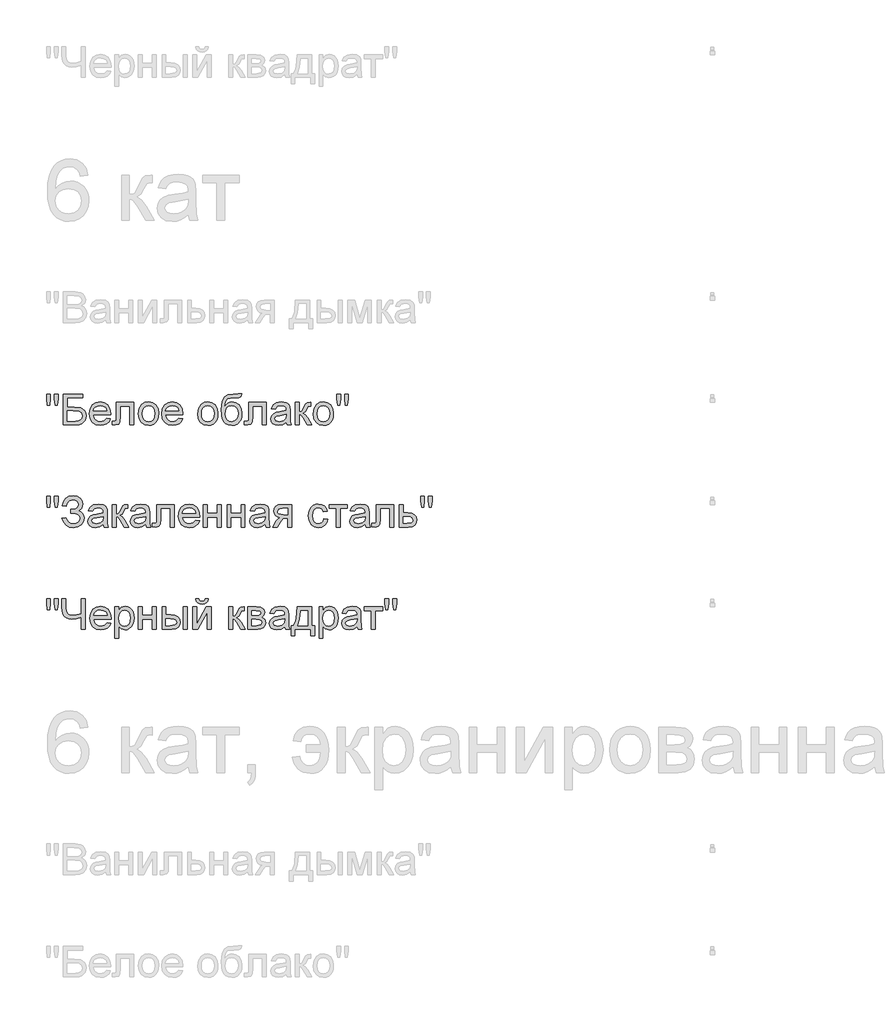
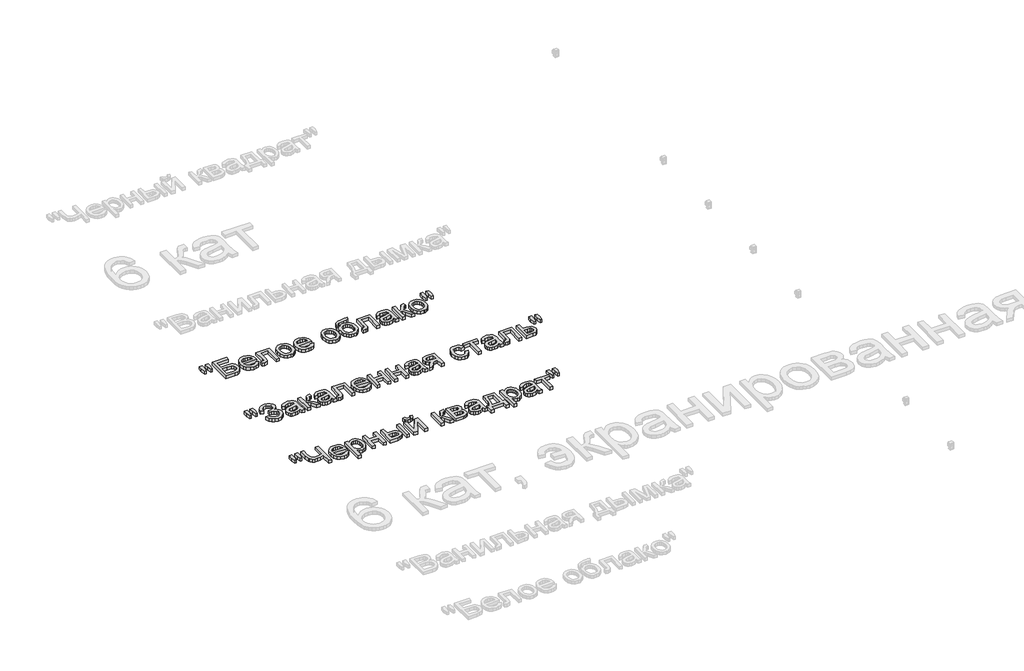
# One storey, part 72 of 168: 3 proxies.
"""IFC4 building model written with IfcOpenShell, lengths in millimetres."""

from ifc_helpers import new_model, si_unit, origin, origin_with_axes, place, context, project, spatial, polyline, outline, extrude, element, save

model = new_model("IFC4")

# Units and contexts
model_context = context("Model", 3, world=origin())
ifc_project = project(units=[si_unit("LENGTHUNIT", "METRE", prefix="MILLI")], contexts=[model_context])

# Site, building, storey
site = spatial("IfcSite", under=ifc_project)
building = spatial("IfcBuilding", under=site)
storey = spatial("IfcBuildingStorey", under=building, Name="Этаж 01", Elevation=0.0)

# Proxies
placement = place(None, origin())
element("IfcBuildingElementProxy", 1, Name="150", ObjectType="150", at=placement, inside=storey, context=model_context, shape_type="SweptSolid", body=[
    extrude(outline(polyline([(60180.1485789, -38270.3300622), (60175.550054, -38241.2305964), (60175.550054, -38216.1778325), (60194.3856121, -38216.1778325), (60194.3856121, -38241.2305964), (60190.2653338, -38270.3300622), (60180.1485789, -38270.3300622)])), origin_with_axes(), (0.0, 0.0, 1.0), 20.0),
    extrude(outline(polyline([(60217.7093306, -38270.3300622), (60213.2211703, -38241.2305964), (60213.2211703, -38216.1778325), (60232.0567284, -38216.1778325), (60232.0567284, -38241.2305964), (60227.6421445, -38270.3300622), (60217.7093306, -38270.3300622)])), origin_with_axes(), (0.0, 0.0, 1.0), 20.0),
    extrude(outline(polyline([(60257.9556209, -38216.1778325), (60352.1334117, -38216.1778325), (60352.1334117, -38235.0133907), (60276.791179, -38235.0133907), (60276.791179, -38279.7478413), (60312.0710624, -38279.7478413), (60343.157091, -38283.573814), (60353.5589544, -38289.101241), (60361.6615553, -38298.0315764), (60366.8762826, -38309.5278888), (60368.614525, -38322.7532465), (60363.6665122, -38344.2191609), (60348.8960501, -38360.5347274), (60335.6247071, -38365.2804052), (60315.4555767, -38366.8622977), (60257.9556209, -38366.8622977), (60257.9556209, -38216.1778325)]), holes=[polyline([(60276.791179, -38348.0267396), (60317.1478339, -38348.0267396), (60331.4124583, -38346.4724382), (60341.6119866, -38341.8095339), (60347.7372218, -38334.0380267), (60349.7789669, -38323.1579167), (60345.1068655, -38308.4058487), (60332.102237, -38300.533174), (60303.7201411, -38298.5833994), (60276.791179, -38298.5833994), (60276.791179, -38348.0267396)])]), origin_with_axes(), (0.0, 0.0, 1.0), 20.0),
    extrude(outline(polyline([(60469.6349209, -38333.900071), (60488.1025971, -38336.2545157), (60481.4485315, -38350.1696522), (60470.8305374, -38360.5715156), (60456.4877381, -38367.0554358), (60438.6592569, -38369.2167425), (60416.5587461, -38365.4873388), (60399.5534008, -38354.2991276), (60388.710079, -38336.3786759), (60385.0956384, -38312.4525506), (60388.7468672, -38287.7216835), (60399.7005536, -38269.2264162), (60416.4759726, -38257.6933157), (60437.5923991, -38253.8489488), (60458.0512366, -38257.6841186), (60474.3989927, -38269.189628), (60485.1181544, -38287.6481071), (60488.6912083, -38312.342186), (60488.5808437, -38317.4189576), (60403.9311966, -38317.4189576), (60407.1915508, -38331.518035), (60414.7653213, -38341.8831103), (60425.6960151, -38348.2566658), (60439.0271389, -38350.3811843), (60457.4948151, -38346.444847), (60469.6349209, -38333.900071)]), holes=[polyline([(60403.9311966, -38298.5833994), (60469.8556501, -38298.5833994), (60467.3080673, -38288.6321915), (60462.3140692, -38281.5136749), (60451.3327917, -38274.8917989), (60437.5188227, -38272.684507), (60424.8222954, -38274.445742), (60414.3238629, -38279.7294472), (60407.0260039, -38287.9654053), (60403.9311966, -38298.5833994)])]), origin_with_axes(), (0.0, 0.0, 1.0), 20.0),
    extrude(outline(polyline([(60516.9445455, -38256.2033936), (60601.7045572, -38256.2033936), (60601.7045572, -38366.7519331), (60582.868999, -38366.7519331), (60582.868999, -38275.0389517), (60535.7801036, -38275.0389517), (60535.7801036, -38327.830018), (60534.5109108, -38352.1838061), (60527.539547, -38362.4661079), (60511.0584336, -38366.8622977), (60495.7545426, -38365.9058045), (60495.7545426, -38348.0267396), (60504.1790403, -38348.0267396), (60512.6955084, -38346.8679113), (60516.0984169, -38343.1890913), (60516.9445455, -38326.7631603), (60516.9445455, -38256.2033936)])), origin_with_axes(), (0.0, 0.0, 1.0), 20.0),
    extrude(outline(polyline([(60625.2490049, -38311.5328457), (60629.323298, -38284.852204), (60641.5461773, -38266.0994193), (60656.6477332, -38256.9115664), (60674.7291332, -38253.8489488), (60694.516586, -38257.5783525), (60710.3217163, -38268.7665637), (60720.6821929, -38286.5306656), (60724.1356852, -38309.9877413), (60722.6089749, -38329.0164375), (60718.0288441, -38343.501791), (60710.5286499, -38354.3497114), (60700.2417496, -38362.4661079), (60688.0234688, -38367.5290839), (60674.7291332, -38369.2167425), (60654.7025571, -38365.5011344), (60638.915821, -38354.3543099), (60628.6657089, -38336.2177275), (60625.2490049, -38311.5328457)]), holes=[polyline([(60644.084563, -38311.4960575), (60646.2642638, -38328.5427894), (60652.8033663, -38340.6874938), (60662.6442097, -38347.9577617), (60674.7291332, -38350.3811843), (60686.7588745, -38347.9439661), (60696.5813237, -38340.6323115), (60703.1204262, -38328.3266587), (60705.300127, -38310.9074463), (60703.1066306, -38294.357355), (60696.5261414, -38282.3781975), (60686.6898966, -38275.1079296), (60674.7291332, -38272.684507), (60662.6442097, -38275.0987326), (60652.8033663, -38282.3414093), (60646.2642638, -38294.4585226), (60644.084563, -38311.4960575)])]), origin_with_axes(), (0.0, 0.0, 1.0), 20.0),
    extrude(outline(polyline([(60822.8016363, -38333.900071), (60841.2693124, -38336.2545157), (60834.6152469, -38350.1696522), (60823.9972528, -38360.5715156), (60809.6544535, -38367.0554358), (60791.8259723, -38369.2167425), (60769.7254614, -38365.4873388), (60752.7201162, -38354.2991276), (60741.8767944, -38336.3786759), (60738.2623538, -38312.4525506), (60741.9135826, -38287.7216835), (60752.867269, -38269.2264162), (60769.642688, -38257.6933157), (60790.7591145, -38253.8489488), (60811.217952, -38257.6841186), (60827.5657081, -38269.189628), (60838.2848698, -38287.6481071), (60841.8579236, -38312.342186), (60841.747559, -38317.4189576), (60757.0979119, -38317.4189576), (60760.3582661, -38331.518035), (60767.9320367, -38341.8831103), (60778.8627305, -38348.2566658), (60792.1938543, -38350.3811843), (60810.6615304, -38346.444847), (60822.8016363, -38333.900071)]), holes=[polyline([(60757.0979119, -38298.5833994), (60823.0223655, -38298.5833994), (60820.4747827, -38288.6321915), (60815.4807846, -38281.5136749), (60804.499507, -38274.8917989), (60790.6855381, -38272.684507), (60777.9890107, -38274.445742), (60767.4905783, -38279.7294472), (60760.1927192, -38287.9654053), (60757.0979119, -38298.5833994)])]), origin_with_axes(), (0.0, 0.0, 1.0), 20.0),
    extrude(outline(polyline([(60914.8457115, -38311.5328457), (60918.9200046, -38284.852204), (60931.1428839, -38266.0994193), (60946.2444398, -38256.9115664), (60964.3258398, -38253.8489488), (60984.1132926, -38257.5783525), (60999.9184229, -38268.7665637), (61010.2788995, -38286.5306656), (61013.7323918, -38309.9877413), (61012.2056815, -38329.0164375), (61007.6255507, -38343.501791), (61000.1253565, -38354.3497114), (60989.8384562, -38362.4661079), (60977.6201754, -38367.5290839), (60964.3258398, -38369.2167425), (60944.2992637, -38365.5011344), (60928.5125276, -38354.3543099), (60918.2624155, -38336.2177275), (60914.8457115, -38311.5328457)]), holes=[polyline([(60933.6812696, -38311.4960575), (60935.8609704, -38328.5427894), (60942.4000729, -38340.6874938), (60952.2409163, -38347.9577617), (60964.3258398, -38350.3811843), (60976.3555811, -38347.9439661), (60986.1780303, -38340.6323115), (60992.7171328, -38328.3266587), (60994.8968336, -38310.9074463), (60992.7033372, -38294.357355), (60986.122848, -38282.3781975), (60976.2866032, -38275.1079296), (60964.3258398, -38272.684507), (60952.2409163, -38275.0987326), (60942.4000729, -38282.3414093), (60935.8609704, -38294.4585226), (60933.6812696, -38311.4960575)])]), origin_with_axes(), (0.0, 0.0, 1.0), 20.0),
    extrude(outline(polyline([(61112.6190721, -38213.8233877), (61129.1001855, -38213.8233877), (61124.2441431, -38228.5202734), (61114.6424231, -38233.8361683), (61091.576222, -38235.0133907), (61060.5085875, -38239.3543982), (61053.3808738, -38245.0013868), (61048.5892108, -38253.2603376), (61044.560903, -38277.8716431), (61060.8764695, -38259.8454253), (61070.7954878, -38255.3480679), (61081.9009255, -38253.8489488), (61101.4998388, -38257.661126), (61117.401538, -38269.0976575), (61127.9413572, -38287.0365033), (61131.4546302, -38310.3556233), (61129.7117893, -38328.3358558), (61124.4832664, -38342.766027), (61107.9469707, -38362.3189551), (61096.6529935, -38367.4922957), (61081.9009255, -38369.2167425), (61064.9001788, -38366.995655), (61052.1576662, -38360.3323923), (61042.7812738, -38350.2064404), (61035.8788879, -38337.597285), (61031.6298508, -38318.6099755), (61030.2135052, -38289.3495614), (61033.786559, -38253.2097538), (61044.5057207, -38231.1690238), (61062.6377045, -38219.9256303), (61088.449225, -38216.1778325), (61109.4184987, -38215.7547682), (61112.6190721, -38213.8233877)]), holes=[polyline([(61112.6190721, -38309.7670121), (61110.577327, -38294.9459662), (61104.4520918, -38283.0771733), (61094.6112484, -38275.2826736), (61081.4226789, -38272.684507), (61067.6730893, -38275.4298264), (61057.473561, -38283.6657845), (61051.1551877, -38296.4910706), (61049.0490633, -38313.0043736), (61051.3759169, -38329.011839), (61058.3564778, -38340.7610702), (61068.7491442, -38347.9761558), (61081.3123143, -38350.3811843), (61093.9398638, -38347.5990768), (61103.937057, -38339.252754), (61110.4485683, -38326.3171033), (61112.6190721, -38309.7670121)])]), origin_with_axes(), (0.0, 0.0, 1.0), 20.0),
    extrude(outline(polyline([(61164.416857, -38256.2033936), (61249.1768687, -38256.2033936), (61249.1768687, -38366.7519331), (61230.3413105, -38366.7519331), (61230.3413105, -38275.0389517), (61183.2524152, -38275.0389517), (61183.2524152, -38327.830018), (61181.9832223, -38352.1838061), (61175.0118585, -38362.4661079), (61158.5307451, -38366.8622977), (61143.2268541, -38365.9058045), (61143.2268541, -38348.0267396), (61151.6513518, -38348.0267396), (61160.16782, -38346.8679113), (61163.5707284, -38343.1890913), (61164.416857, -38326.7631603), (61164.416857, -38256.2033936)])), origin_with_axes(), (0.0, 0.0, 1.0), 20.0),
    extrude(outline(polyline([(61348.063549, -38352.7356291), (61329.7982079, -38365.5011344), (61309.6198805, -38369.2167425), (61293.8791296, -38366.9818594), (61282.2678542, -38360.27721), (61275.1079508, -38350.0960758), (61272.7213164, -38337.4317381), (61276.3265599, -38322.5325173), (61285.7995213, -38311.7167867), (61298.9880908, -38305.5363691), (61315.2852632, -38302.7036778), (61347.9531844, -38296.2289547), (61348.063549, -38292.0350999), (61346.766765, -38283.6289963), (61342.8764129, -38278.1291605), (61334.1760037, -38274.0456704), (61322.0542919, -38272.684507), (61302.9980046, -38276.3081446), (61293.9113193, -38289.1656204), (61275.0757612, -38286.8111756), (61283.2243473, -38268.4170758), (61299.6318843, -38257.6381334), (61324.4823131, -38253.8489488), (61347.3093909, -38257.196675), (61360.2036548, -38265.6027786), (61365.9794022, -38278.3866779), (61366.8991071, -38294.8677913), (61366.8991071, -38318.3018744), (61367.8556003, -38351.0249778), (61371.6079967, -38366.8622977), (61352.7724385, -38366.8622977), (61348.063549, -38352.7356291)]), holes=[polyline([(61348.063549, -38315.0645128), (61317.6764962, -38320.8402601), (61301.4712943, -38323.8936807), (61294.1320485, -38328.8600876), (61291.5568745, -38336.1073629), (61297.167075, -38346.2976942), (61313.6297942, -38350.3811843), (61332.6860816, -38345.8746299), (61344.9733402, -38334.9669288), (61347.9531844, -38320.3988017), (61348.063549, -38315.0645128)])]), origin_with_axes(), (0.0, 0.0, 1.0), 20.0),
    extrude(outline(polyline([(61392.7979996, -38256.2033936), (61411.6335578, -38256.2033936), (61411.6335578, -38303.292289), (61424.2519102, -38299.9077746), (61434.5893943, -38280.1892997), (61443.1794388, -38263.1747574), (61450.7578079, -38257.6381334), (61464.5349887, -38256.2033936), (61468.1402322, -38256.2033936), (61468.1402322, -38275.1493163), (61463.0634607, -38275.0389517), (61453.8664108, -38277.0255145), (61447.3916877, -38289.4231377), (61439.7949245, -38302.8324365), (61429.1447407, -38309.3991301), (61441.0273292, -38316.7291788), (61452.6891884, -38332.1710256), (61472.8491218, -38366.8622977), (61451.4383896, -38366.8622977), (61431.6831265, -38332.9067896), (61421.7503126, -38318.5409977), (61411.6335578, -38315.0645128), (61411.6335578, -38366.8622977), (61392.7979996, -38366.8622977), (61392.7979996, -38256.2033936)])), origin_with_axes(), (0.0, 0.0, 1.0), 20.0),
    extrude(outline(polyline([(61479.9124561, -38311.5328457), (61483.9867492, -38284.852204), (61496.2096285, -38266.0994193), (61511.3111844, -38256.9115664), (61529.3925844, -38253.8489488), (61549.1800372, -38257.5783525), (61564.9851674, -38268.7665637), (61575.3456441, -38286.5306656), (61578.7991364, -38309.9877413), (61577.2724261, -38329.0164375), (61572.6922952, -38343.501791), (61565.1921011, -38354.3497114), (61554.9052008, -38362.4661079), (61542.68692, -38367.5290839), (61529.3925844, -38369.2167425), (61509.3660083, -38365.5011344), (61493.5792722, -38354.3543099), (61483.3291601, -38336.2177275), (61479.9124561, -38311.5328457)]), holes=[polyline([(61498.7480142, -38311.4960575), (61500.927715, -38328.5427894), (61507.4668175, -38340.6874938), (61517.3076609, -38347.9577617), (61529.3925844, -38350.3811843), (61541.4223257, -38347.9439661), (61551.2447749, -38340.6323115), (61557.7838774, -38328.3266587), (61559.9635782, -38310.9074463), (61557.7700818, -38294.357355), (61551.1895926, -38282.3781975), (61541.3533478, -38275.1079296), (61529.3925844, -38272.684507), (61517.3076609, -38275.0987326), (61507.4668175, -38282.3414093), (61500.927715, -38294.4585226), (61498.7480142, -38311.4960575)])]), origin_with_axes(), (0.0, 0.0, 1.0), 20.0),
    extrude(outline(polyline([(61599.8787747, -38270.3300622), (61595.2802498, -38241.2305964), (61595.2802498, -38216.1778325), (61614.1158079, -38216.1778325), (61614.1158079, -38241.2305964), (61609.9955296, -38270.3300622), (61599.8787747, -38270.3300622)])), origin_with_axes(), (0.0, 0.0, 1.0), 20.0),
    extrude(outline(polyline([(61637.4395264, -38270.3300622), (61632.9513661, -38241.2305964), (61632.9513661, -38216.1778325), (61651.7869242, -38216.1778325), (61651.7869242, -38241.2305964), (61647.3723403, -38270.3300622), (61637.4395264, -38270.3300622)])), origin_with_axes(), (0.0, 0.0, 1.0), 20.0),
])
element("IfcBuildingElementProxy", 2, Name="150", ObjectType="150", at=placement, inside=storey, context=model_context, shape_type="SweptSolid", body=[
    extrude(outline(polyline([(60180.1485789, -38770.3300622), (60175.550054, -38741.2305964), (60175.550054, -38716.1778325), (60194.3856121, -38716.1778325), (60194.3856121, -38741.2305964), (60190.2653338, -38770.3300622), (60180.1485789, -38770.3300622)])), origin_with_axes(), (0.0, 0.0, 1.0), 20.0),
    extrude(outline(polyline([(60217.7093306, -38770.3300622), (60213.2211703, -38741.2305964), (60213.2211703, -38716.1778325), (60232.0567284, -38716.1778325), (60232.0567284, -38741.2305964), (60227.6421445, -38770.3300622), (60217.7093306, -38770.3300622)])), origin_with_axes(), (0.0, 0.0, 1.0), 20.0),
    extrude(outline(polyline([(60250.8922866, -38824.4822919), (60269.7278447, -38819.7734024), (60281.2977335, -38840.172459), (60292.2284273, -38847.829003), (60306.2217387, -38850.3811843), (60320.398991, -38848.4635995), (60331.2193202, -38842.7108448), (60338.0757209, -38834.2449603), (60340.3611878, -38824.1879863), (60337.8641888, -38813.6527657), (60330.3731916, -38805.517975), (60318.5779752, -38800.3170433), (60303.1683181, -38798.5833994), (60293.2722924, -38798.5833994), (60293.2722924, -38779.7478413), (60314.591054, -38778.221131), (60327.6324708, -38770.4220327), (60333.2978535, -38756.1666054), (60331.4124583, -38747.2960508), (60325.7562726, -38739.6670979), (60316.8811195, -38734.4109839), (60305.3388219, -38732.6589459), (60286.1169876, -38738.0484171), (60275.117316, -38752.3406326), (60272.0822895, -38765.6211727), (60253.2467313, -38760.9122831), (60259.0983543, -38740.3108914), (60269.7002536, -38725.5956116), (60285.0524291, -38716.7664437), (60305.1548809, -38713.8233877), (60324.5468605, -38716.8814068), (60339.4598769, -38726.0554641), (60348.965028, -38739.3222085), (60352.1334117, -38754.6582892), (60347.2037929, -38773.3007093), (60332.4149367, -38787.2158458), (60342.8903765, -38792.0396984), (60351.5080123, -38800.1836861), (60357.2745625, -38810.948833), (60359.196746, -38823.6361633), (60355.508729, -38841.4738415), (60344.444678, -38856.1385376), (60327.2921799, -38865.9471913), (60305.3388219, -38869.2167425), (60286.2365493, -38866.4208393), (60270.7947025, -38858.0331298), (60259.0132816, -38844.053614), (60250.8922866, -38824.4822919)])), origin_with_axes(), (0.0, 0.0, 1.0), 20.0),
    extrude(outline(polyline([(60453.3745367, -38852.7356291), (60435.1091957, -38865.5011344), (60414.9308682, -38869.2167425), (60399.1901174, -38866.9818594), (60387.5788419, -38860.27721), (60380.4189386, -38850.0960758), (60378.0323041, -38837.4317381), (60381.6375477, -38822.5325173), (60391.110509, -38811.7167867), (60404.2990786, -38805.5363691), (60420.596251, -38802.7036778), (60453.2641721, -38796.2289547), (60453.3745367, -38792.0350999), (60452.0777527, -38783.6289963), (60448.1874006, -38778.1291605), (60439.4869914, -38774.0456704), (60427.3652797, -38772.684507), (60408.3089923, -38776.3081446), (60399.222307, -38789.1656204), (60380.3867489, -38786.8111756), (60388.5353351, -38768.4170758), (60404.9428721, -38757.6381334), (60429.7933008, -38753.8489488), (60452.6203786, -38757.196675), (60465.5146426, -38765.6027786), (60471.2903899, -38778.3866779), (60472.2100949, -38794.8677913), (60472.2100949, -38818.3018744), (60473.1665881, -38851.0249778), (60476.9189844, -38866.8622977), (60458.0834263, -38866.8622977), (60453.3745367, -38852.7356291)]), holes=[polyline([(60453.3745367, -38815.0645128), (60422.9874839, -38820.8402601), (60406.782282, -38823.8936807), (60399.4430362, -38828.8600876), (60396.8678623, -38836.1073629), (60402.4780627, -38846.2976942), (60418.940782, -38850.3811843), (60437.9970693, -38845.8746299), (60450.284328, -38834.9669288), (60453.2641721, -38820.3988017), (60453.3745367, -38815.0645128)])]), origin_with_axes(), (0.0, 0.0, 1.0), 20.0),
    extrude(outline(polyline([(60498.1089873, -38756.2033936), (60516.9445455, -38756.2033936), (60516.9445455, -38803.292289), (60529.5628979, -38799.9077746), (60539.900382, -38780.1892997), (60548.4904266, -38763.1747574), (60556.0687957, -38757.6381334), (60569.8459764, -38756.2033936), (60573.4512199, -38756.2033936), (60573.4512199, -38775.1493163), (60568.3744484, -38775.0389517), (60559.1773985, -38777.0255145), (60552.7026754, -38789.4231377), (60545.1059122, -38802.8324365), (60534.4557285, -38809.3991301), (60546.3383169, -38816.7291788), (60558.0001762, -38832.1710256), (60578.1601095, -38866.8622977), (60556.7493774, -38866.8622977), (60536.9941142, -38832.9067896), (60527.0613004, -38818.5409977), (60516.9445455, -38815.0645128), (60516.9445455, -38866.8622977), (60498.1089873, -38866.8622977), (60498.1089873, -38756.2033936)])), origin_with_axes(), (0.0, 0.0, 1.0), 20.0),
    extrude(outline(polyline([(60660.5656764, -38852.7356291), (60642.3003353, -38865.5011344), (60622.1220079, -38869.2167425), (60606.381257, -38866.9818594), (60594.7699816, -38860.27721), (60587.6100782, -38850.0960758), (60585.2234438, -38837.4317381), (60588.8286873, -38822.5325173), (60598.3016487, -38811.7167867), (60611.4902183, -38805.5363691), (60627.7873906, -38802.7036778), (60660.4553118, -38796.2289547), (60660.5656764, -38792.0350999), (60659.2688924, -38783.6289963), (60655.3785403, -38778.1291605), (60646.6781311, -38774.0456704), (60634.5564193, -38772.684507), (60615.500132, -38776.3081446), (60606.4134467, -38789.1656204), (60587.5778886, -38786.8111756), (60595.7264748, -38768.4170758), (60612.1340117, -38757.6381334), (60636.9844405, -38753.8489488), (60659.8115183, -38757.196675), (60672.7057822, -38765.6027786), (60678.4815296, -38778.3866779), (60679.4012346, -38794.8677913), (60679.4012346, -38818.3018744), (60680.3577277, -38851.0249778), (60684.1101241, -38866.8622977), (60665.2745659, -38866.8622977), (60660.5656764, -38852.7356291)]), holes=[polyline([(60660.5656764, -38815.0645128), (60630.1786236, -38820.8402601), (60613.9734217, -38823.8936807), (60606.6341759, -38828.8600876), (60604.0590019, -38836.1073629), (60609.6692024, -38846.2976942), (60626.1319217, -38850.3811843), (60645.188209, -38845.8746299), (60657.4754676, -38834.9669288), (60660.4553118, -38820.3988017), (60660.5656764, -38815.0645128)])]), origin_with_axes(), (0.0, 0.0, 1.0), 20.0),
    extrude(outline(polyline([(60714.7179061, -38756.2033936), (60799.4779178, -38756.2033936), (60799.4779178, -38866.7519331), (60780.6423596, -38866.7519331), (60780.6423596, -38775.0389517), (60733.5534643, -38775.0389517), (60733.5534643, -38827.830018), (60732.2842714, -38852.1838061), (60725.3129076, -38862.4661079), (60708.8317942, -38866.8622977), (60693.5279032, -38865.9058045), (60693.5279032, -38848.0267396), (60701.9524009, -38848.0267396), (60710.4688691, -38846.8679113), (60713.8717775, -38843.1890913), (60714.7179061, -38826.7631603), (60714.7179061, -38756.2033936)])), origin_with_axes(), (0.0, 0.0, 1.0), 20.0),
    extrude(outline(polyline([(60905.2072032, -38833.900071), (60923.6748794, -38836.2545157), (60917.0208138, -38850.1696522), (60906.4028197, -38860.5715156), (60892.0600204, -38867.0554358), (60874.2315392, -38869.2167425), (60852.1310283, -38865.4873388), (60835.1256831, -38854.2991276), (60824.2823613, -38836.3786759), (60820.6679207, -38812.4525506), (60824.3191495, -38787.7216835), (60835.2728359, -38769.2264162), (60852.0482549, -38757.6933157), (60873.1646814, -38753.8489488), (60893.6235189, -38757.6841186), (60909.971275, -38769.189628), (60920.6904367, -38787.6481071), (60924.2634906, -38812.342186), (60924.153126, -38817.4189576), (60839.5034789, -38817.4189576), (60842.763833, -38831.518035), (60850.3376036, -38841.8831103), (60861.2682974, -38848.2566658), (60874.5994212, -38850.3811843), (60893.0670974, -38846.444847), (60905.2072032, -38833.900071)]), holes=[polyline([(60839.5034789, -38798.5833994), (60905.4279324, -38798.5833994), (60902.8803496, -38788.6321915), (60897.8863515, -38781.5136749), (60886.9050739, -38774.8917989), (60873.091105, -38772.684507), (60860.3945777, -38774.445742), (60849.8961452, -38779.7294472), (60842.5982861, -38787.9654053), (60839.5034789, -38798.5833994)])]), origin_with_axes(), (0.0, 0.0, 1.0), 20.0),
    extrude(outline(polyline([(60943.0990487, -38756.2033936), (60961.9346069, -38756.2033936), (60961.9346069, -38798.5833994), (61011.377947, -38798.5833994), (61011.377947, -38756.2033936), (61030.2135052, -38756.2033936), (61030.2135052, -38866.8622977), (61011.377947, -38866.8622977), (61011.377947, -38817.4189576), (60961.9346069, -38817.4189576), (60961.9346069, -38866.8622977), (60943.0990487, -38866.8622977), (60943.0990487, -38756.2033936)])), origin_with_axes(), (0.0, 0.0, 1.0), 20.0),
    extrude(outline(polyline([(61058.4668424, -38756.2033936), (61077.3024005, -38756.2033936), (61077.3024005, -38798.5833994), (61126.7457407, -38798.5833994), (61126.7457407, -38756.2033936), (61145.5812988, -38756.2033936), (61145.5812988, -38866.8622977), (61126.7457407, -38866.8622977), (61126.7457407, -38817.4189576), (61077.3024005, -38817.4189576), (61077.3024005, -38866.8622977), (61058.4668424, -38866.8622977), (61058.4668424, -38756.2033936)])), origin_with_axes(), (0.0, 0.0, 1.0), 20.0),
    extrude(outline(polyline([(61244.4679792, -38852.7356291), (61226.2026381, -38865.5011344), (61206.0243107, -38869.2167425), (61190.2835598, -38866.9818594), (61178.6722843, -38860.27721), (61171.512381, -38850.0960758), (61169.1257465, -38837.4317381), (61172.7309901, -38822.5325173), (61182.2039515, -38811.7167867), (61195.392521, -38805.5363691), (61211.6896934, -38802.7036778), (61244.3576146, -38796.2289547), (61244.4679792, -38792.0350999), (61243.1711951, -38783.6289963), (61239.280843, -38778.1291605), (61230.5804338, -38774.0456704), (61218.4587221, -38772.684507), (61199.4024347, -38776.3081446), (61190.3157495, -38789.1656204), (61171.4801913, -38786.8111756), (61179.6287775, -38768.4170758), (61196.0363145, -38757.6381334), (61220.8867433, -38753.8489488), (61243.7138211, -38757.196675), (61256.608085, -38765.6027786), (61262.3838323, -38778.3866779), (61263.3035373, -38794.8677913), (61263.3035373, -38818.3018744), (61264.2600305, -38851.0249778), (61268.0124268, -38866.8622977), (61249.1768687, -38866.8622977), (61244.4679792, -38852.7356291)]), holes=[polyline([(61244.4679792, -38815.0645128), (61214.0809264, -38820.8402601), (61197.8757245, -38823.8936807), (61190.5364787, -38828.8600876), (61187.9613047, -38836.1073629), (61193.5715051, -38846.2976942), (61210.0342244, -38850.3811843), (61229.0905118, -38845.8746299), (61241.3777704, -38834.9669288), (61244.3576146, -38820.3988017), (61244.4679792, -38815.0645128)])]), origin_with_axes(), (0.0, 0.0, 1.0), 20.0),
    extrude(outline(polyline([(61373.9624415, -38756.2033936), (61373.9624415, -38866.8622977), (61355.1268833, -38866.8622977), (61355.1268833, -38824.4822919), (61344.8629756, -38824.4822919), (61330.8834598, -38826.8735249), (61317.7500726, -38842.949968), (61302.7404872, -38866.8622977), (61280.9618731, -38866.8622977), (61299.8710076, -38836.6223977), (61308.2219289, -38825.7698789), (61315.9106626, -38820.9506247), (61303.0347928, -38817.0050903), (61293.9848957, -38809.5094947), (61288.6322127, -38799.5398926), (61286.847985, -38788.172339), (61289.2852032, -38775.278075), (61296.5968579, -38765.0693497), (61308.5254316, -38758.4198826), (61324.8134069, -38756.2033936), (61373.9624415, -38756.2033936)]), holes=[polyline([(61355.1268833, -38775.0389517), (61330.2948486, -38775.0389517), (61317.4695626, -38776.1288021), (61310.1900976, -38779.3983534), (61305.6835431, -38789.6070787), (61307.3436107, -38796.7853762), (61312.3238132, -38801.7655787), (61335.8498668, -38805.6467337), (61355.1268833, -38805.6467337), (61355.1268833, -38775.0389517)])]), origin_with_axes(), (0.0, 0.0, 1.0), 20.0),
    extrude(outline(polyline([(61531.710241, -38826.8367367), (61550.5457991, -38829.1911814), (61545.2942837, -38845.9436078), (61535.4258491, -38858.6033469), (61521.8693976, -38866.5633936), (61505.5538311, -38869.2167425), (61485.518058, -38865.5149299), (61469.8508835, -38854.4094922), (61459.7387272, -38836.387873), (61456.3680084, -38811.9375159), (61457.8073467, -38795.1758924), (61462.1253616, -38780.6491522), (61469.391031, -38768.918315), (61479.6733328, -38760.5444011), (61491.974387, -38755.5228119), (61505.2963137, -38753.8489488), (61521.2118085, -38756.1482113), (61533.9359271, -38763.0459987), (61543.0639991, -38774.174429), (61548.1913544, -38789.1656204), (61529.3557962, -38791.5200651), (61520.6185988, -38777.4117906), (61505.4434665, -38772.684507), (61493.271171, -38775.0113606), (61483.6096701, -38781.9919214), (61477.3050924, -38794.0032686), (61475.2035665, -38811.4224811), (61477.2591072, -38829.0762183), (61483.4257291, -38841.1289522), (61492.9124861, -38848.0681263), (61504.9284317, -38850.3811843), (61514.6819031, -38848.9372475), (61522.678738, -38844.605437), (61528.4958721, -38837.2753883), (61531.710241, -38826.8367367)])), origin_with_axes(), (0.0, 0.0, 1.0), 20.0),
    extrude(outline(polyline([(61557.6091334, -38756.2033936), (61647.0780347, -38756.2033936), (61647.0780347, -38775.0389517), (61611.7613631, -38775.0389517), (61611.7613631, -38866.8622977), (61592.925805, -38866.8622977), (61592.925805, -38775.0389517), (61557.6091334, -38775.0389517), (61557.6091334, -38756.2033936)])), origin_with_axes(), (0.0, 0.0, 1.0), 20.0),
    extrude(outline(polyline([(61734.1924911, -38852.7356291), (61715.9271501, -38865.5011344), (61695.7488226, -38869.2167425), (61680.0080718, -38866.9818594), (61668.3967963, -38860.27721), (61661.236893, -38850.0960758), (61658.8502585, -38837.4317381), (61662.4555021, -38822.5325173), (61671.9284634, -38811.7167867), (61685.117033, -38805.5363691), (61701.4142054, -38802.7036778), (61734.0821265, -38796.2289547), (61734.1924911, -38792.0350999), (61732.8957071, -38783.6289963), (61729.005355, -38778.1291605), (61720.3049458, -38774.0456704), (61708.1832341, -38772.684507), (61689.1269467, -38776.3081446), (61680.0402614, -38789.1656204), (61661.2047033, -38786.8111756), (61669.3532895, -38768.4170758), (61685.7608265, -38757.6381334), (61710.6112552, -38753.8489488), (61733.438333, -38757.196675), (61746.332597, -38765.6027786), (61752.1083443, -38778.3866779), (61753.0280493, -38794.8677913), (61753.0280493, -38818.3018744), (61753.9845425, -38851.0249778), (61757.7369388, -38866.8622977), (61738.9013807, -38866.8622977), (61734.1924911, -38852.7356291)]), holes=[polyline([(61734.1924911, -38815.0645128), (61703.8054383, -38820.8402601), (61687.6002364, -38823.8936807), (61680.2609906, -38828.8600876), (61677.6858167, -38836.1073629), (61683.2960171, -38846.2976942), (61699.7587364, -38850.3811843), (61718.8150237, -38845.8746299), (61731.1022824, -38834.9669288), (61734.0821265, -38820.3988017), (61734.1924911, -38815.0645128)])]), origin_with_axes(), (0.0, 0.0, 1.0), 20.0),
    extrude(outline(polyline([(61788.3447208, -38756.2033936), (61873.1047325, -38756.2033936), (61873.1047325, -38866.7519331), (61854.2691744, -38866.7519331), (61854.2691744, -38775.0389517), (61807.180279, -38775.0389517), (61807.180279, -38827.830018), (61805.9110861, -38852.1838061), (61798.9397223, -38862.4661079), (61782.4586089, -38866.8622977), (61767.1547179, -38865.9058045), (61767.1547179, -38848.0267396), (61775.5792156, -38848.0267396), (61784.0956838, -38846.8679113), (61787.4985922, -38843.1890913), (61788.3447208, -38826.7631603), (61788.3447208, -38756.2033936)])), origin_with_axes(), (0.0, 0.0, 1.0), 20.0),
    extrude(outline(polyline([(61901.3580697, -38756.2033936), (61920.1936279, -38756.2033936), (61920.1936279, -38796.2289547), (61941.8986656, -38796.2289547), (61960.7158297, -38798.587998), (61974.6401632, -38805.6651278), (61983.2486019, -38816.8901272), (61986.1180814, -38831.692779), (61983.6762647, -38845.1710556), (61976.3508145, -38856.5432078), (61963.6542871, -38864.2825252), (61945.099239, -38866.8622977), (61901.3580697, -38866.8622977), (61901.3580697, -38756.2033936)]), holes=[polyline([(61920.1936279, -38848.0267396), (61937.7783873, -38848.0267396), (61960.4951005, -38844.0720081), (61965.5856676, -38839.0090322), (61967.2825233, -38831.7295672), (61962.260934, -38820.1412843), (61954.1905228, -38816.3337057), (61940.0224674, -38815.0645128), (61920.1936279, -38815.0645128), (61920.1936279, -38848.0267396)])]), origin_with_axes(), (0.0, 0.0, 1.0), 20.0),
    extrude(outline(polyline([(62009.5521645, -38770.3300622), (62004.9536396, -38741.2305964), (62004.9536396, -38716.1778325), (62023.7891977, -38716.1778325), (62023.7891977, -38741.2305964), (62019.6689194, -38770.3300622), (62009.5521645, -38770.3300622)])), origin_with_axes(), (0.0, 0.0, 1.0), 20.0),
    extrude(outline(polyline([(62047.1129162, -38770.3300622), (62042.6247559, -38741.2305964), (62042.6247559, -38716.1778325), (62061.460314, -38716.1778325), (62061.460314, -38741.2305964), (62057.0457301, -38770.3300622), (62047.1129162, -38770.3300622)])), origin_with_axes(), (0.0, 0.0, 1.0), 20.0),
])
element("IfcBuildingElementProxy", 3, Name="150", ObjectType="150", at=placement, inside=storey, context=model_context, shape_type="SweptSolid", body=[
    extrude(outline(polyline([(60180.1485789, -39270.3300622), (60175.550054, -39241.2305964), (60175.550054, -39216.1778325), (60194.3856121, -39216.1778325), (60194.3856121, -39241.2305964), (60190.2653338, -39270.3300622), (60180.1485789, -39270.3300622)])), origin_with_axes(), (0.0, 0.0, 1.0), 20.0),
    extrude(outline(polyline([(60217.7093306, -39270.3300622), (60213.2211703, -39241.2305964), (60213.2211703, -39216.1778325), (60232.0567284, -39216.1778325), (60232.0567284, -39241.2305964), (60227.6421445, -39270.3300622), (60217.7093306, -39270.3300622)])), origin_with_axes(), (0.0, 0.0, 1.0), 20.0),
    extrude(outline(polyline([(60363.9056355, -39366.8622977), (60345.0700773, -39366.8622977), (60345.0700773, -39306.5296505), (60320.0908899, -39314.6966308), (60298.4226404, -39317.4189576), (60283.7395502, -39315.556555), (60270.886673, -39309.9693472), (60260.926268, -39301.5172583), (60254.9205944, -39291.0602126), (60250.8922866, -39261.0594359), (60250.8922866, -39216.1778325), (60269.7278447, -39216.1778325), (60269.7278447, -39258.5210502), (60271.990319, -39278.8879171), (60278.7777418, -39290.8394834), (60288.7381468, -39296.6474204), (60300.5195677, -39298.5833994), (60322.2521966, -39296.2473488), (60345.0700773, -39289.2391968), (60345.0700773, -39216.1778325), (60363.9056355, -39216.1778325), (60363.9056355, -39366.8622977)])), origin_with_axes(), (0.0, 0.0, 1.0), 20.0),
    extrude(outline(polyline([(60471.9893657, -39333.900071), (60490.4570418, -39336.2545157), (60483.8029762, -39350.1696522), (60473.1849822, -39360.5715156), (60458.8421829, -39367.0554358), (60441.0137017, -39369.2167425), (60418.9131908, -39365.4873388), (60401.9078456, -39354.2991276), (60391.0645238, -39336.3786759), (60387.4500832, -39312.4525506), (60391.101312, -39287.7216835), (60402.0549984, -39269.2264162), (60418.8304174, -39257.6933157), (60439.9468439, -39253.8489488), (60460.4056814, -39257.6841186), (60476.7534375, -39269.189628), (60487.4725992, -39287.6481071), (60491.045653, -39312.342186), (60490.9352884, -39317.4189576), (60406.2856413, -39317.4189576), (60409.5459955, -39331.518035), (60417.1197661, -39341.8831103), (60428.0504599, -39348.2566658), (60441.3815837, -39350.3811843), (60459.8492598, -39346.444847), (60471.9893657, -39333.900071)]), holes=[polyline([(60406.2856413, -39298.5833994), (60472.2100949, -39298.5833994), (60469.6625121, -39288.6321915), (60464.668514, -39281.5136749), (60453.6872364, -39274.8917989), (60439.8732675, -39272.684507), (60427.1767401, -39274.445742), (60416.6783077, -39279.7294472), (60409.3804486, -39287.9654053), (60406.2856413, -39298.5833994)])]), origin_with_axes(), (0.0, 0.0, 1.0), 20.0),
    extrude(outline(polyline([(60509.8812112, -39409.2423036), (60509.8812112, -39256.2033936), (60528.7167693, -39256.2033936), (60528.7167693, -39274.6710697), (60541.739792, -39259.054479), (60559.3245513, -39253.8489488), (60572.0624654, -39255.6699647), (60583.2000928, -39261.1330123), (60592.268384, -39269.9069979), (60598.7982894, -39281.6608277), (60604.0590019, -39310.6867171), (60602.5736784, -39326.7953499), (60598.1177077, -39341.2025286), (60590.8336442, -39353.1770875), (60580.8640422, -39361.9878613), (60569.2527667, -39367.4095222), (60557.043683, -39369.2167425), (60540.6545401, -39364.3790943), (60528.7167693, -39352.1470179), (60528.7167693, -39409.2423036), (60509.8812112, -39409.2423036)]), holes=[polyline([(60528.7167693, -39312.4157624), (60530.7539159, -39329.301546), (60536.8653555, -39341.1105581), (60545.8830629, -39348.0635278), (60556.6390128, -39350.3811843), (60567.5697066, -39347.9807543), (60576.8173402, -39340.7794643), (60583.1219179, -39328.5381909), (60585.2234438, -39311.0178109), (60583.1725017, -39294.2239978), (60577.0196753, -39282.2494388), (60568.0157635, -39275.0757399), (60557.411565, -39272.684507), (60546.7659797, -39275.2274913), (60537.4171785, -39282.8564441), (60530.8918716, -39295.3322423), (60528.7167693, -39312.4157624)])]), origin_with_axes(), (0.0, 0.0, 1.0), 20.0),
    extrude(outline(polyline([(60625.2490049, -39256.2033936), (60644.084563, -39256.2033936), (60644.084563, -39298.5833994), (60693.5279032, -39298.5833994), (60693.5279032, -39256.2033936), (60712.3634613, -39256.2033936), (60712.3634613, -39366.8622977), (60693.5279032, -39366.8622977), (60693.5279032, -39317.4189576), (60644.084563, -39317.4189576), (60644.084563, -39366.8622977), (60625.2490049, -39366.8622977), (60625.2490049, -39256.2033936)])), origin_with_axes(), (0.0, 0.0, 1.0), 20.0),
    extrude(outline(polyline([(60844.2123684, -39256.2033936), (60863.0479266, -39256.2033936), (60863.0479266, -39366.8622977), (60844.2123684, -39366.8622977), (60844.2123684, -39256.2033936)])), origin_with_axes(), (0.0, 0.0, 1.0), 20.0),
    extrude(outline(polyline([(60740.6167986, -39256.2033936), (60759.4523567, -39256.2033936), (60759.4523567, -39296.2289547), (60782.739287, -39296.2289547), (60802.8670307, -39298.587998), (60817.780047, -39305.6651278), (60827.0092866, -39316.8901272), (60830.0856998, -39331.692779), (60827.5059273, -39345.1710556), (60819.7666098, -39356.5432078), (60806.3619096, -39364.2825252), (60786.785989, -39366.8622977), (60740.6167986, -39366.8622977), (60740.6167986, -39256.2033936)]), holes=[polyline([(60759.4523567, -39348.0267396), (60778.8029497, -39348.0267396), (60803.7821371, -39344.0720081), (60809.3831405, -39339.0090322), (60811.2501416, -39331.7295672), (60805.7135176, -39320.1412843), (60796.8337659, -39316.3337057), (60781.267759, -39315.0645128), (60759.4523567, -39315.0645128), (60759.4523567, -39348.0267396)])]), origin_with_axes(), (0.0, 0.0, 1.0), 20.0),
    extrude(outline(polyline([(60891.3012638, -39256.2033936), (60910.1368219, -39256.2033936), (60910.1368219, -39340.5955233), (60956.4163769, -39256.2033936), (60980.770165, -39256.2033936), (60980.770165, -39366.8622977), (60961.9346069, -39366.8622977), (60961.9346069, -39282.9852028), (60915.9493575, -39366.8622977), (60891.3012638, -39366.8622977), (60891.3012638, -39256.2033936)])), origin_with_axes(), (0.0, 0.0, 1.0), 20.0),
    extrude(outline(polyline([(60952.5168278, -39216.1778325), (60966.6434964, -39216.1778325), (60963.6038714, -39228.2397634), (60957.5016288, -39237.1287121), (60948.6126801, -39242.6055553), (60937.2129368, -39244.4311697), (60924.8429047, -39242.6193509), (60915.2503817, -39237.1838944), (60908.6928851, -39228.3087413), (60905.4279324, -39216.1778325), (60919.554601, -39216.1778325), (60924.8521017, -39226.7912281), (60935.5206796, -39230.3045011), (60947.219327, -39226.9015927), (60952.5168278, -39216.1778325)])), origin_with_axes(), (0.0, 0.0, 1.0), 20.0),
    extrude(outline(polyline([(61067.8846215, -39256.2033936), (61086.7201796, -39256.2033936), (61086.7201796, -39303.292289), (61099.3385321, -39299.9077746), (61109.6760161, -39280.1892997), (61118.2660607, -39263.1747574), (61125.8444298, -39257.6381334), (61139.6216105, -39256.2033936), (61143.2268541, -39256.2033936), (61143.2268541, -39275.1493163), (61138.1500825, -39275.0389517), (61128.9530327, -39277.0255145), (61122.4783096, -39289.4231377), (61114.8815464, -39302.8324365), (61104.2313626, -39309.3991301), (61116.113951, -39316.7291788), (61127.7758103, -39332.1710256), (61147.9357436, -39366.8622977), (61126.5250115, -39366.8622977), (61106.7697484, -39332.9067896), (61096.8369345, -39318.5409977), (61086.7201796, -39315.0645128), (61086.7201796, -39366.8622977), (61067.8846215, -39366.8622977), (61067.8846215, -39256.2033936)])), origin_with_axes(), (0.0, 0.0, 1.0), 20.0),
    extrude(outline(polyline([(61159.7079675, -39256.2033936), (61201.2050565, -39256.2033936), (61223.9585579, -39258.7233853), (61236.7608514, -39267.9572233), (61242.1135344, -39284.0520606), (61238.8761728, -39297.1302655), (61229.1273, -39306.4560741), (61241.7824406, -39316.6647995), (61246.8224239, -39334.4151058), (61243.6310476, -39348.7717006), (61236.0434815, -39358.8792584), (61224.0321343, -39364.8665379), (61207.569415, -39366.8622977), (61159.7079675, -39366.8622977), (61159.7079675, -39256.2033936)]), holes=[polyline([(61178.5435256, -39298.5833994), (61197.1583546, -39298.5833994), (61212.5174279, -39297.6269062), (61219.9854324, -39293.8009335), (61223.2779762, -39286.884752), (61221.8340394, -39281.2653545), (61217.5022289, -39277.6509139), (61197.7469658, -39275.0389517), (61178.5435256, -39275.0389517), (61178.5435256, -39298.5833994)]), polyline([(61178.5435256, -39348.0267396), (61201.6465149, -39348.0267396), (61222.137542, -39344.6238311), (61226.377382, -39339.9839195), (61227.9868658, -39332.8700014), (61224.7678983, -39323.8017102), (61216.3801888, -39318.5226036), (61199.8071049, -39317.4189576), (61178.5435256, -39317.4189576), (61178.5435256, -39348.0267396)])]), origin_with_axes(), (0.0, 0.0, 1.0), 20.0),
    extrude(outline(polyline([(61341.0002147, -39352.7356291), (61322.7348736, -39365.5011344), (61302.5565462, -39369.2167425), (61286.8157953, -39366.9818594), (61275.2045198, -39360.27721), (61268.0446165, -39350.0960758), (61265.6579821, -39337.4317381), (61269.2632256, -39322.5325173), (61278.736187, -39311.7167867), (61291.9247565, -39305.5363691), (61308.2219289, -39302.7036778), (61340.8898501, -39296.2289547), (61341.0002147, -39292.0350999), (61339.7034307, -39283.6289963), (61335.8130786, -39278.1291605), (61327.1126694, -39274.0456704), (61314.9909576, -39272.684507), (61295.9346703, -39276.3081446), (61286.847985, -39289.1656204), (61268.0124268, -39286.8111756), (61276.161013, -39268.4170758), (61292.56855, -39257.6381334), (61317.4189788, -39253.8489488), (61340.2460566, -39257.196675), (61353.1403205, -39265.6027786), (61358.9160679, -39278.3866779), (61359.8357728, -39294.8677913), (61359.8357728, -39318.3018744), (61360.792266, -39351.0249778), (61364.5446624, -39366.8622977), (61345.7091042, -39366.8622977), (61341.0002147, -39352.7356291)]), holes=[polyline([(61341.0002147, -39315.0645128), (61310.6131619, -39320.8402601), (61294.40796, -39323.8936807), (61287.0687142, -39328.8600876), (61284.4935402, -39336.1073629), (61290.1037407, -39346.2976942), (61306.5664599, -39350.3811843), (61325.6227473, -39345.8746299), (61337.9100059, -39334.9669288), (61340.8898501, -39320.3988017), (61341.0002147, -39315.0645128)])]), origin_with_axes(), (0.0, 0.0, 1.0), 20.0),
    extrude(outline(polyline([(61402.2157787, -39256.2033936), (61472.8491218, -39256.2033936), (61472.8491218, -39348.0267396), (61486.9757904, -39348.0267396), (61486.9757904, -39397.4700797), (61468.1402322, -39397.4700797), (61468.1402322, -39366.8622977), (61390.4435548, -39366.8622977), (61390.4435548, -39397.4700797), (61371.6079967, -39397.4700797), (61371.6079967, -39348.0267396), (61383.3802205, -39348.0267396), (61391.9380754, -39332.5619002), (61397.9299534, -39312.1030628), (61402.2157787, -39256.2033936)]), holes=[polyline([(61418.6968921, -39275.0389517), (61414.2823081, -39317.9523865), (61404.5702235, -39348.0267396), (61454.0135636, -39348.0267396), (61454.0135636, -39275.0389517), (61418.6968921, -39275.0389517)])]), origin_with_axes(), (0.0, 0.0, 1.0), 20.0),
    extrude(outline(polyline([(61508.1657933, -39409.2423036), (61508.1657933, -39256.2033936), (61527.0013514, -39256.2033936), (61527.0013514, -39274.6710697), (61540.0243741, -39259.054479), (61557.6091334, -39253.8489488), (61570.3470475, -39255.6699647), (61581.4846749, -39261.1330123), (61590.5529661, -39269.9069979), (61597.0828715, -39281.6608277), (61602.3435841, -39310.6867171), (61600.8582605, -39326.7953499), (61596.4022898, -39341.2025286), (61589.1182263, -39353.1770875), (61579.1486243, -39361.9878613), (61567.5373488, -39367.4095222), (61555.3282651, -39369.2167425), (61538.9391222, -39364.3790943), (61527.0013514, -39352.1470179), (61527.0013514, -39409.2423036), (61508.1657933, -39409.2423036)]), holes=[polyline([(61527.0013514, -39312.4157624), (61529.038498, -39329.301546), (61535.1499376, -39341.1105581), (61544.167645, -39348.0635278), (61554.9235949, -39350.3811843), (61565.8542887, -39347.9807543), (61575.1019223, -39340.7794643), (61581.4065, -39328.5381909), (61583.5080259, -39311.0178109), (61581.4570838, -39294.2239978), (61575.3042574, -39282.2494388), (61566.3003456, -39275.0757399), (61555.6961471, -39272.684507), (61545.0505618, -39275.2274913), (61535.7017606, -39282.8564441), (61529.1764537, -39295.3322423), (61527.0013514, -39312.4157624)])]), origin_with_axes(), (0.0, 0.0, 1.0), 20.0),
    extrude(outline(polyline([(61694.1669301, -39352.7356291), (61675.901589, -39365.5011344), (61655.7232616, -39369.2167425), (61639.9825107, -39366.9818594), (61628.3712352, -39360.27721), (61621.2113319, -39350.0960758), (61618.8246974, -39337.4317381), (61622.429941, -39322.5325173), (61631.9029024, -39311.7167867), (61645.0914719, -39305.5363691), (61661.3886443, -39302.7036778), (61694.0565655, -39296.2289547), (61694.1669301, -39292.0350999), (61692.870146, -39283.6289963), (61688.9797939, -39278.1291605), (61680.2793847, -39274.0456704), (61668.157673, -39272.684507), (61649.1013856, -39276.3081446), (61640.0147004, -39289.1656204), (61621.1791422, -39286.8111756), (61629.3277284, -39268.4170758), (61645.7352654, -39257.6381334), (61670.5856942, -39253.8489488), (61693.412772, -39257.196675), (61706.3070359, -39265.6027786), (61712.0827832, -39278.3866779), (61713.0024882, -39294.8677913), (61713.0024882, -39318.3018744), (61713.9589814, -39351.0249778), (61717.7113777, -39366.8622977), (61698.8758196, -39366.8622977), (61694.1669301, -39352.7356291)]), holes=[polyline([(61694.1669301, -39315.0645128), (61663.7798773, -39320.8402601), (61647.5746754, -39323.8936807), (61640.2354296, -39328.8600876), (61637.6602556, -39336.1073629), (61643.270456, -39346.2976942), (61659.7331753, -39350.3811843), (61678.7894627, -39345.8746299), (61691.0767213, -39334.9669288), (61694.0565655, -39320.3988017), (61694.1669301, -39315.0645128)])]), origin_with_axes(), (0.0, 0.0, 1.0), 20.0),
    extrude(outline(polyline([(61729.4836016, -39256.2033936), (61818.9525028, -39256.2033936), (61818.9525028, -39275.0389517), (61783.6358313, -39275.0389517), (61783.6358313, -39366.8622977), (61764.8002731, -39366.8622977), (61764.8002731, -39275.0389517), (61729.4836016, -39275.0389517), (61729.4836016, -39256.2033936)])), origin_with_axes(), (0.0, 0.0, 1.0), 20.0),
    extrude(outline(polyline([(61835.3232516, -39270.3300622), (61830.7247267, -39241.2305964), (61830.7247267, -39216.1778325), (61849.5602848, -39216.1778325), (61849.5602848, -39241.2305964), (61845.4400065, -39270.3300622), (61835.3232516, -39270.3300622)])), origin_with_axes(), (0.0, 0.0, 1.0), 20.0),
    extrude(outline(polyline([(61872.8840033, -39270.3300622), (61868.395843, -39241.2305964), (61868.395843, -39216.1778325), (61887.2314011, -39216.1778325), (61887.2314011, -39241.2305964), (61882.8168172, -39270.3300622), (61872.8840033, -39270.3300622)])), origin_with_axes(), (0.0, 0.0, 1.0), 20.0),
])

save(model, "model.ifc")
